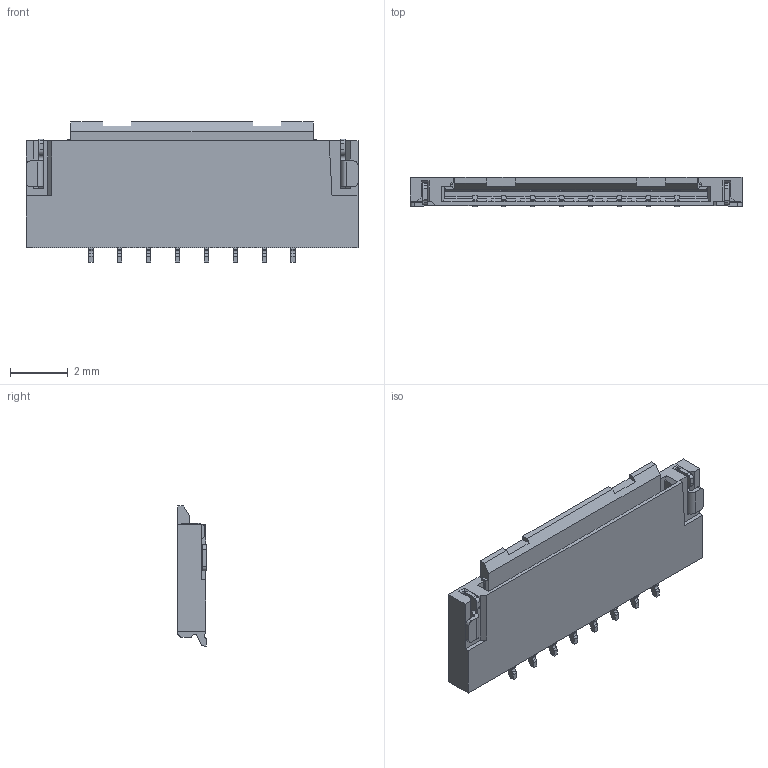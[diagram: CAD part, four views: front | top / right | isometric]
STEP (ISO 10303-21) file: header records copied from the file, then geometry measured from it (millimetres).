
FILE_DESCRIPTION((''),'2;1');
FILE_NAME('S-52507-008XX-XXX-','2020-03-13T',('t00382'),(''),'PRO/ENGINEER BY PARAMETRIC TECHNOLOGY CORPORATION, 2007450','PRO/ENGINEER BY PARAMETRIC TECHNOLOGY CORPORATION, 2007450','');
FILE_SCHEMA(('AUTOMOTIVE_DESIGN { 1 0 10303 214 1 1 1 1 }'));
Length unit declared in the file: millimetre
Products named in the file (1): S-52507-008XX-XXX-
Bounding box: 11.5 x 1 x 4.85 mm (x, y, z)
Volume: 29 mm3; surface area: 248.7 mm2
Topology: 1 solids, 1 shells, 1060 faces, 3257 edges, 2154 vertices
Faces by surface type: plane 757, cylinder 303
Entity records: 43831 total; most frequent: CARTESIAN_POINT 6539, ORIENTED_EDGE 6434, DIRECTION 5945, EDGE_CURVE 3217, VECTOR 2615, LINE 2615, VERTEX_POINT 2114, AXIS2_PLACEMENT_3D 1665
